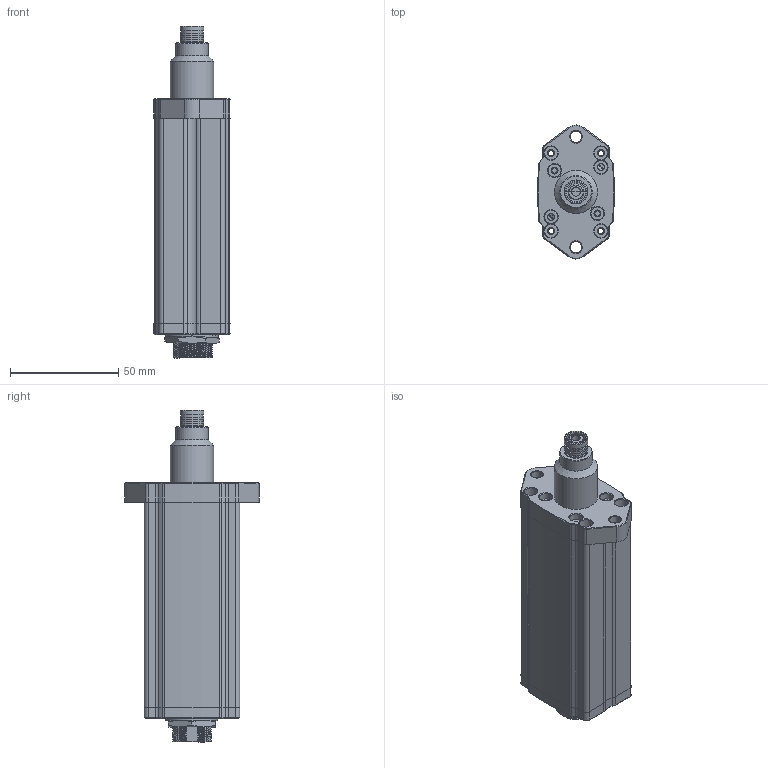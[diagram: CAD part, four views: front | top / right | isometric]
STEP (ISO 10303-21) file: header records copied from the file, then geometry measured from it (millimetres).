
FILE_DESCRIPTION(/* description */ (''),/* implementation_level */ '2;1');
FILE_NAME(/* name */ 'FI1003DC-HM.stp',/* time_stamp */ '2023-11-06T08:37:10+08:00',/* author */ (''),/* organization */ (''),/* preprocessor_version */ 'ST-DEVELOPER v16.7',/* originating_system */ 'SIEMENS PLM Software NX 12.0',/* authorisation */ '');
FILE_SCHEMA (('AUTOMOTIVE_DESIGN { 1 0 10303 214 3 1 1 1 }'));
Length unit declared in the file: millimetre
Products named in the file (1): Admi45208781oesa
Bounding box: 35.39 x 62 x 153.47 mm (x, y, z)
Volume: 98866.1 mm3; surface area: 56649.4 mm2
Topology: 8 solids, 10 shells, 550 faces, 1400 edges, 908 vertices
Faces by surface type: cylinder 223, plane 207, cone 75, bspline 27, sphere 18
Full cylindrical faces by diameter (mm): 1.5 x16, 2.5 x2, 3.2 x12, 4 x1, 4.4 x2, 5 x1, 5.3 x2, 6 x12, 6.5 x1, 6.6 x1, 7 x1, 7.5 x1, 9 x3, 10.2 x3, 11 x4, 15 x1, 15.4 x1, 16.2 x1, 18 x2, 19 x1, 20 x2, 22 x1, 22.3 x1, 22.6 x1, 24.2 x1, 26 x1
Entity records: 40714 total; most frequent: CARTESIAN_POINT 27735, DIRECTION 2572, ORIENTED_EDGE 2421, EDGE_CURVE 1217, AXIS2_PLACEMENT_3D 1024, VERTEX_POINT 837, EDGE_LOOP 739, ADVANCED_FACE 550
